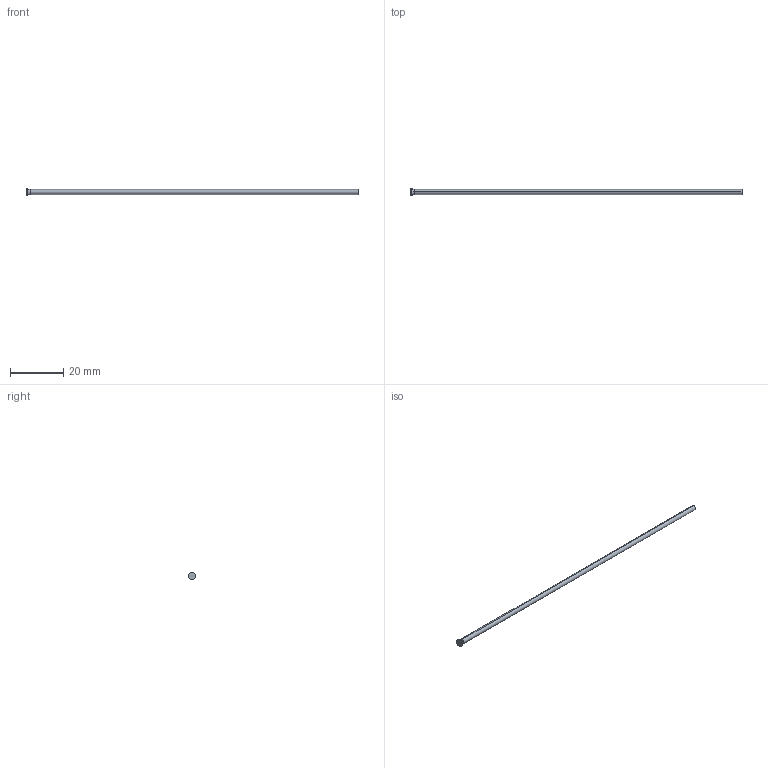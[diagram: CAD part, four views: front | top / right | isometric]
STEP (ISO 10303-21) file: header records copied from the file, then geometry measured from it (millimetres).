
FILE_DESCRIPTION (( 'STEP AP214' ), '1' );
FILE_NAME ('D-1,9x125.STEP', '2020-06-08T09:43:18', ( 'August' ), ( '' ), 'SwSTEP 2.0', 'SolidWorks 2018', '' );
FILE_SCHEMA (( 'AUTOMOTIVE_DESIGN' ));
Length unit declared in the file: millimetre
Products named in the file (1): D-1,9x125
Bounding box: 125 x 2.8 x 2.8 mm (x, y, z)
Volume: 357.3 mm3; surface area: 758.5 mm2
Topology: 1 solids, 1 shells, 10 faces, 18 edges, 10 vertices
Faces by surface type: cylinder 4, torus 2, cone 2, plane 2
Entity records: 280 total; most frequent: DIRECTION 52, CARTESIAN_POINT 39, ORIENTED_EDGE 36, AXIS2_PLACEMENT_3D 23, EDGE_CURVE 18, CIRCLE 12, EDGE_LOOP 10, VERTEX_POINT 10
